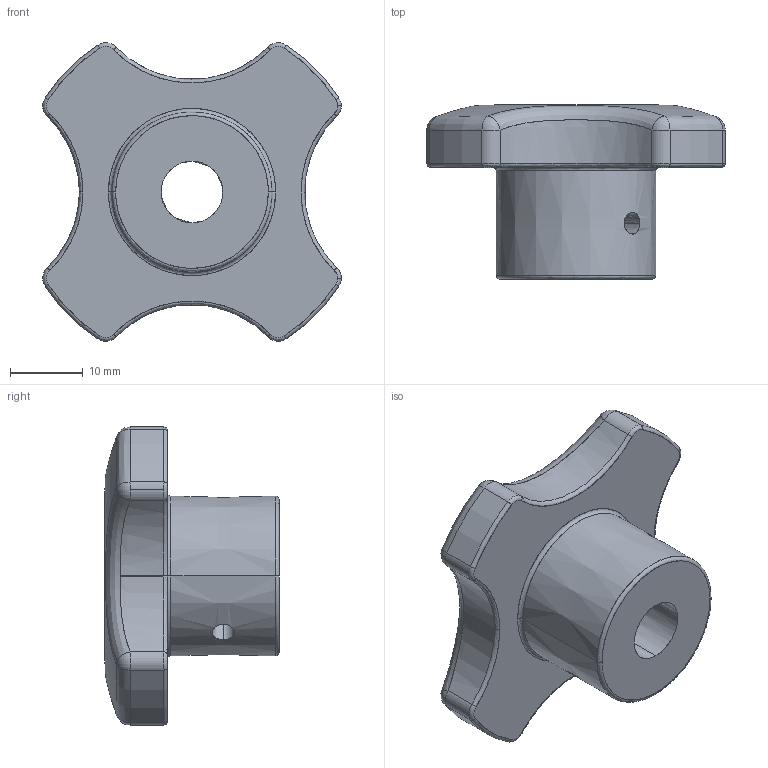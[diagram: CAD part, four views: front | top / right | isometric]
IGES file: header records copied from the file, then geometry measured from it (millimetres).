
Start section: SolidWorks IGES file using analytic representation for surfaces
Global section: file name: C:\Projetos\13.20003.IGS; native system: SolidWorks 2015; preprocessor: SolidWorks 2015; author: Ricardo; date: 171003.133235; units: millimetre
Bounding box: 41.06 x 24 x 41.06 mm (x, y, z)
Surface area: 5346.6 mm2 (no closed solid volume)
Topology: 0 solids, 0 shells, 76 faces, 1064 edges, 1060 vertices
Faces by surface type: revolution 39, bspline 37
